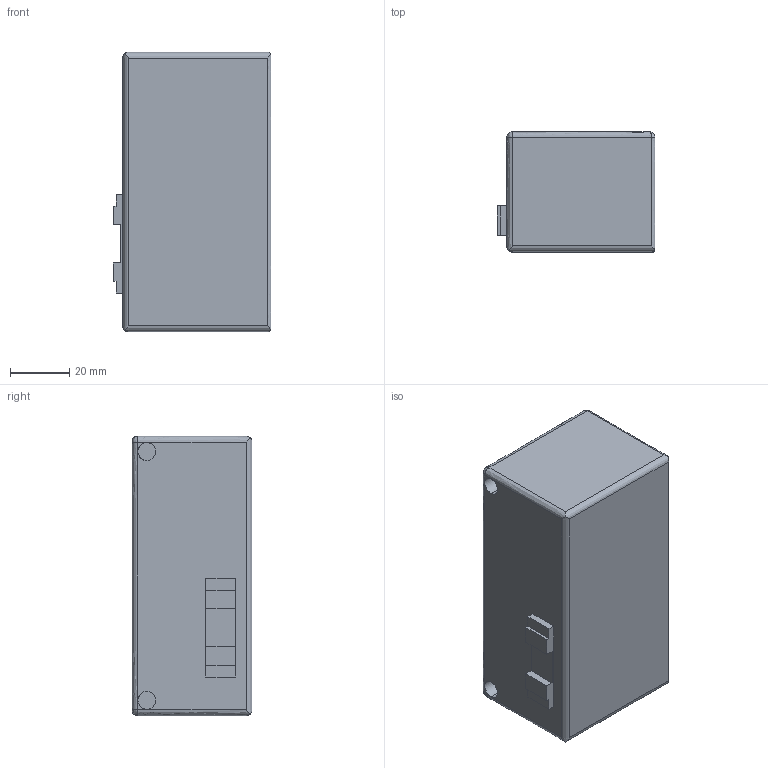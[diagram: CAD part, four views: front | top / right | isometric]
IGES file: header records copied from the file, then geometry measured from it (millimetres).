
Start section: ------------------------------------------------------------------------
Global section: file name: D:\ICADMX\tmp\trans3d_spg\CVICAD32.14756.YS6H1_10299.igs; native system: spGate; preprocessor: ver12.6.6; author: Unknown; organization: Unknown; date: 200909.091816; units: millimetre
Bounding box: 53.3 x 40.5 x 94.4 mm (x, y, z)
Volume: 189255.9 mm3; surface area: 22226.7 mm2
Topology: 1 solids, 1 shells, 41 faces, 104 edges, 62 vertices
Faces by surface type: bspline 41
